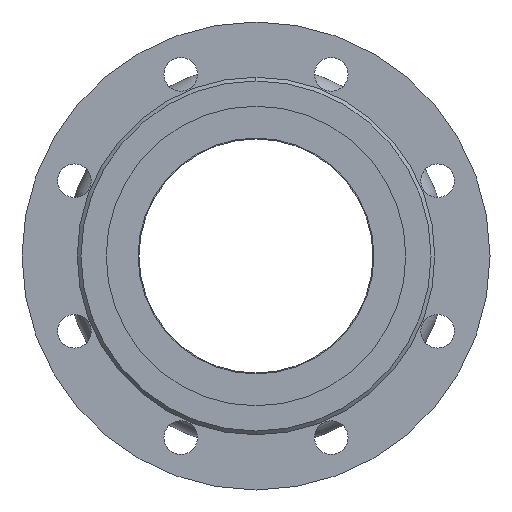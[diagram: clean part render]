
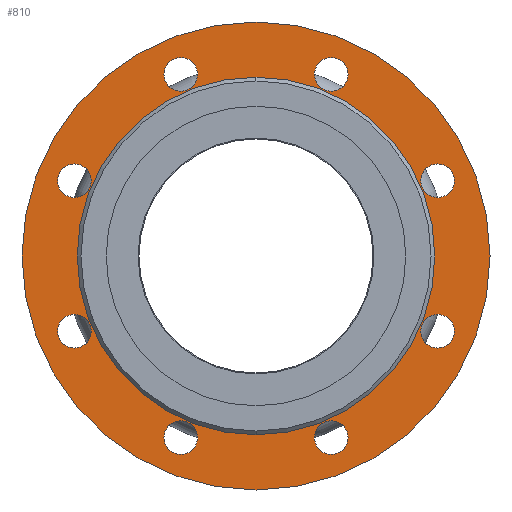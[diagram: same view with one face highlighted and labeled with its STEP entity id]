
A CAD part, left-side view. The second image highlights one B-rep face of the part: STEP entity #810.
In plain terms, the highlighted planar face has unit normal (-1, 0, 0).
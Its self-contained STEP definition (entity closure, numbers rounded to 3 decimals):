
#810=ADVANCED_FACE('',(#1518,#1519,#1520,#1521,#1522,#1523,#1524,#1525,#1526,#1527),#1528,.F.);
#1518=FACE_BOUND('',#2311,.T.);
#1519=FACE_BOUND('',#2312,.T.);
#1520=FACE_BOUND('',#2313,.T.);
#1521=FACE_BOUND('',#2314,.T.);
#1522=FACE_BOUND('',#2315,.T.);
#1523=FACE_BOUND('',#2316,.T.);
#1524=FACE_BOUND('',#2317,.T.);
#1525=FACE_BOUND('',#2318,.T.);
#1526=FACE_BOUND('',#2319,.T.);
#1527=FACE_OUTER_BOUND('',#2320,.T.);
#1528=PLANE('',#2321);
#2311=EDGE_LOOP('',(#3726,#3727));
#2312=EDGE_LOOP('',(#3728,#3729));
#2313=EDGE_LOOP('',(#3730,#3731));
#2314=EDGE_LOOP('',(#3732,#3733));
#2315=EDGE_LOOP('',(#3734,#3735));
#2316=EDGE_LOOP('',(#3736,#3737));
#2317=EDGE_LOOP('',(#3738,#3739));
#2318=EDGE_LOOP('',(#3740,#3741));
#2319=EDGE_LOOP('',(#3742,#3743));
#2320=EDGE_LOOP('',(#3744,#3745));
#2321=AXIS2_PLACEMENT_3D('',#3746,#3747,#3748);
#3726=ORIENTED_EDGE('',*,*,#4747,.T.);
#3727=ORIENTED_EDGE('',*,*,#4671,.T.);
#3728=ORIENTED_EDGE('',*,*,#4772,.T.);
#3729=ORIENTED_EDGE('',*,*,#4276,.T.);
#3730=ORIENTED_EDGE('',*,*,#4773,.T.);
#3731=ORIENTED_EDGE('',*,*,#4511,.T.);
#3732=ORIENTED_EDGE('',*,*,#4774,.T.);
#3733=ORIENTED_EDGE('',*,*,#4440,.T.);
#3734=ORIENTED_EDGE('',*,*,#4775,.T.);
#3735=ORIENTED_EDGE('',*,*,#4562,.T.);
#3736=ORIENTED_EDGE('',*,*,#4776,.T.);
#3737=ORIENTED_EDGE('',*,*,#4578,.T.);
#3738=ORIENTED_EDGE('',*,*,#4571,.T.);
#3739=ORIENTED_EDGE('',*,*,#4600,.T.);
#3740=ORIENTED_EDGE('',*,*,#4649,.T.);
#3741=ORIENTED_EDGE('',*,*,#4241,.T.);
#3742=ORIENTED_EDGE('',*,*,#4777,.T.);
#3743=ORIENTED_EDGE('',*,*,#4249,.T.);
#3744=ORIENTED_EDGE('',*,*,#4281,.F.);
#3745=ORIENTED_EDGE('',*,*,#4462,.F.);
#3746=CARTESIAN_POINT('',(5.0,0.0,0.));
#3747=DIRECTION('',(1.0,0.0,0.));
#3748=DIRECTION('',(0.,0.0,-1.0));
#4241=EDGE_CURVE('',#4937,#4935,#4938,.T.);
#4249=EDGE_CURVE('',#4951,#4949,#4952,.T.);
#4276=EDGE_CURVE('',#5000,#4998,#5001,.T.);
#4281=EDGE_CURVE('',#5006,#5009,#5010,.T.);
#4440=EDGE_CURVE('',#5270,#5268,#5271,.T.);
#4462=EDGE_CURVE('',#5009,#5006,#5305,.T.);
#4511=EDGE_CURVE('',#5377,#5375,#5378,.T.);
#4562=EDGE_CURVE('',#5452,#5450,#5453,.T.);
#4571=EDGE_CURVE('',#5460,#5462,#5464,.T.);
#4578=EDGE_CURVE('',#5472,#5470,#5473,.T.);
#4600=EDGE_CURVE('',#5462,#5460,#5501,.T.);
#4649=EDGE_CURVE('',#4935,#4937,#5566,.T.);
#4671=EDGE_CURVE('',#5593,#5595,#5597,.T.);
#4747=EDGE_CURVE('',#5595,#5593,#5696,.T.);
#4772=EDGE_CURVE('',#4998,#5000,#5722,.T.);
#4773=EDGE_CURVE('',#5375,#5377,#5723,.T.);
#4774=EDGE_CURVE('',#5268,#5270,#5724,.T.);
#4775=EDGE_CURVE('',#5450,#5452,#5725,.T.);
#4776=EDGE_CURVE('',#5470,#5472,#5726,.T.);
#4777=EDGE_CURVE('',#4949,#4951,#5727,.T.);
#4935=VERTEX_POINT('',#5906);
#4937=VERTEX_POINT('',#5909);
#4938=CIRCLE('',#5910,9.0);
#4949=VERTEX_POINT('',#5922);
#4951=VERTEX_POINT('',#5925);
#4952=CIRCLE('',#5926,9.0);
#4998=VERTEX_POINT('',#5977);
#5000=VERTEX_POINT('',#5980);
#5001=CIRCLE('',#5981,9.0);
#5006=VERTEX_POINT('',#5987);
#5009=VERTEX_POINT('',#5991);
#5010=CIRCLE('',#5992,125.0);
#5268=VERTEX_POINT('',#6309);
#5270=VERTEX_POINT('',#6312);
#5271=CIRCLE('',#6313,9.0);
#5305=CIRCLE('',#6360,125.0);
#5375=VERTEX_POINT('',#6453);
#5377=VERTEX_POINT('',#6456);
#5378=CIRCLE('',#6457,9.0);
#5450=VERTEX_POINT('',#6542);
#5452=VERTEX_POINT('',#6545);
#5453=CIRCLE('',#6546,9.0);
#5460=VERTEX_POINT('',#6556);
#5462=VERTEX_POINT('',#6559);
#5464=CIRCLE('',#6562,9.0);
#5470=VERTEX_POINT('',#6570);
#5472=VERTEX_POINT('',#6573);
#5473=CIRCLE('',#6574,9.0);
#5501=CIRCLE('',#6610,9.0);
#5566=CIRCLE('',#6686,9.0);
#5593=VERTEX_POINT('',#6720);
#5595=VERTEX_POINT('',#6723);
#5597=CIRCLE('',#6726,62.5);
#5696=CIRCLE('',#6848,62.5);
#5722=CIRCLE('',#6880,9.0);
#5723=CIRCLE('',#6881,9.0);
#5724=CIRCLE('',#6882,9.0);
#5725=CIRCLE('',#6883,9.0);
#5726=CIRCLE('',#6884,9.0);
#5727=CIRCLE('',#6885,9.0);
#5906=CARTESIAN_POINT('',(5.0,-97.007,-49.182));
#5909=CARTESIAN_POINT('',(5.0,-97.007,-31.182));
#5910=AXIS2_PLACEMENT_3D('',#7066,#7067,#7068);
#5922=CARTESIAN_POINT('',(5.0,-40.182,-106.007));
#5925=CARTESIAN_POINT('',(5.,-40.182,-88.007));
#5926=AXIS2_PLACEMENT_3D('',#7080,#7081,#7082);
#5977=CARTESIAN_POINT('',(5.0,97.007,-49.182));
#5980=CARTESIAN_POINT('',(5.0,97.007,-31.182));
#5981=AXIS2_PLACEMENT_3D('',#7134,#7135,#7136);
#5987=CARTESIAN_POINT('',(5.,0.0,-125.0));
#5991=CARTESIAN_POINT('',(5.,0.,125.0));
#5992=AXIS2_PLACEMENT_3D('',#7142,#7143,#7144);
#6309=CARTESIAN_POINT('',(5.0,-97.007,31.182));
#6312=CARTESIAN_POINT('',(5.0,-97.007,49.182));
#6313=AXIS2_PLACEMENT_3D('',#7379,#7380,#7381);
#6360=AXIS2_PLACEMENT_3D('',#7404,#7405,#7406);
#6453=CARTESIAN_POINT('',(5.0,40.182,-106.007));
#6456=CARTESIAN_POINT('',(5.,40.182,-88.007));
#6457=AXIS2_PLACEMENT_3D('',#7461,#7462,#7463);
#6542=CARTESIAN_POINT('',(5.0,-40.182,88.007));
#6545=CARTESIAN_POINT('',(5.,-40.182,106.007));
#6546=AXIS2_PLACEMENT_3D('',#7553,#7554,#7555);
#6556=CARTESIAN_POINT('',(5.0,40.182,88.007));
#6559=CARTESIAN_POINT('',(5.,40.182,106.007));
#6562=AXIS2_PLACEMENT_3D('',#7561,#7562,#7563);
#6570=CARTESIAN_POINT('',(5.0,97.007,31.182));
#6573=CARTESIAN_POINT('',(5.0,97.007,49.182));
#6574=AXIS2_PLACEMENT_3D('',#7567,#7568,#7569);
#6610=AXIS2_PLACEMENT_3D('',#7593,#7594,#7595);
#6686=AXIS2_PLACEMENT_3D('',#7661,#7662,#7663);
#6720=CARTESIAN_POINT('',(5.0,0.,-62.5));
#6723=CARTESIAN_POINT('',(5.0,0.,62.5));
#6726=AXIS2_PLACEMENT_3D('',#7688,#7689,#7690);
#6848=AXIS2_PLACEMENT_3D('',#7786,#7787,#7788);
#6880=AXIS2_PLACEMENT_3D('',#7807,#7808,#7809);
#6881=AXIS2_PLACEMENT_3D('',#7810,#7811,#7812);
#6882=AXIS2_PLACEMENT_3D('',#7813,#7814,#7815);
#6883=AXIS2_PLACEMENT_3D('',#7816,#7817,#7818);
#6884=AXIS2_PLACEMENT_3D('',#7819,#7820,#7821);
#6885=AXIS2_PLACEMENT_3D('',#7822,#7823,#7824);
#7066=CARTESIAN_POINT('',(5.0,-97.007,-40.182));
#7067=DIRECTION('',(1.0,0.0,0.));
#7068=DIRECTION('',(0.,0.0,-1.0));
#7080=CARTESIAN_POINT('',(5.,-40.182,-97.007));
#7081=DIRECTION('',(1.0,0.0,0.));
#7082=DIRECTION('',(0.,0.0,-1.0));
#7134=CARTESIAN_POINT('',(5.0,97.007,-40.182));
#7135=DIRECTION('',(1.0,0.0,0.));
#7136=DIRECTION('',(0.,0.0,-1.0));
#7142=CARTESIAN_POINT('',(5.0,0.0,0.));
#7143=DIRECTION('',(1.0,0.0,0.));
#7144=DIRECTION('',(0.,0.0,-1.0));
#7379=CARTESIAN_POINT('',(5.0,-97.007,40.182));
#7380=DIRECTION('',(1.0,0.0,0.));
#7381=DIRECTION('',(0.,0.0,-1.0));
#7404=CARTESIAN_POINT('',(5.0,0.0,0.));
#7405=DIRECTION('',(1.0,0.0,0.));
#7406=DIRECTION('',(0.,0.0,-1.0));
#7461=CARTESIAN_POINT('',(5.,40.182,-97.007));
#7462=DIRECTION('',(1.0,0.0,0.));
#7463=DIRECTION('',(0.,0.0,-1.0));
#7553=CARTESIAN_POINT('',(5.,-40.182,97.007));
#7554=DIRECTION('',(1.0,0.0,0.));
#7555=DIRECTION('',(0.,0.0,-1.0));
#7561=CARTESIAN_POINT('',(5.,40.182,97.007));
#7562=DIRECTION('',(1.0,0.0,0.));
#7563=DIRECTION('',(0.,0.0,-1.0));
#7567=CARTESIAN_POINT('',(5.0,97.007,40.182));
#7568=DIRECTION('',(1.0,0.0,0.));
#7569=DIRECTION('',(0.,0.0,-1.0));
#7593=CARTESIAN_POINT('',(5.,40.182,97.007));
#7594=DIRECTION('',(1.0,0.0,0.));
#7595=DIRECTION('',(0.,0.0,-1.0));
#7661=CARTESIAN_POINT('',(5.0,-97.007,-40.182));
#7662=DIRECTION('',(1.0,0.0,0.));
#7663=DIRECTION('',(0.,0.0,-1.0));
#7688=CARTESIAN_POINT('',(5.0,0.0,0.));
#7689=DIRECTION('',(1.0,0.0,0.));
#7690=DIRECTION('',(0.,0.0,-1.0));
#7786=CARTESIAN_POINT('',(5.0,0.0,0.));
#7787=DIRECTION('',(1.0,0.0,0.));
#7788=DIRECTION('',(0.,0.0,-1.0));
#7807=CARTESIAN_POINT('',(5.0,97.007,-40.182));
#7808=DIRECTION('',(1.0,0.0,0.));
#7809=DIRECTION('',(0.,0.0,-1.0));
#7810=CARTESIAN_POINT('',(5.,40.182,-97.007));
#7811=DIRECTION('',(1.0,0.0,0.));
#7812=DIRECTION('',(0.,0.0,-1.0));
#7813=CARTESIAN_POINT('',(5.0,-97.007,40.182));
#7814=DIRECTION('',(1.0,0.0,0.));
#7815=DIRECTION('',(0.,0.0,-1.0));
#7816=CARTESIAN_POINT('',(5.,-40.182,97.007));
#7817=DIRECTION('',(1.0,0.0,0.));
#7818=DIRECTION('',(0.,0.0,-1.0));
#7819=CARTESIAN_POINT('',(5.0,97.007,40.182));
#7820=DIRECTION('',(1.0,0.0,0.));
#7821=DIRECTION('',(0.,0.0,-1.0));
#7822=CARTESIAN_POINT('',(5.,-40.182,-97.007));
#7823=DIRECTION('',(1.0,0.0,0.));
#7824=DIRECTION('',(0.,0.0,-1.0));
